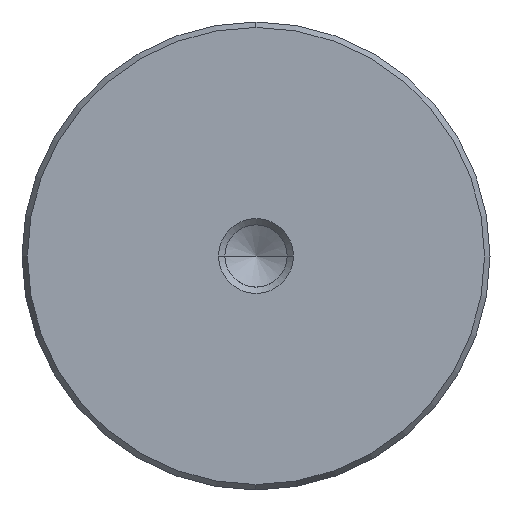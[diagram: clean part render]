
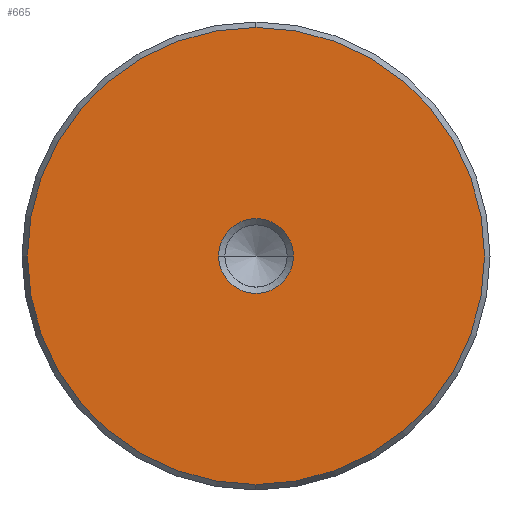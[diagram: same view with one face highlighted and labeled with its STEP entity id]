
A CAD part, left-side view. The second image highlights one B-rep face of the part: STEP entity #665.
In plain terms, the highlighted planar face has unit normal (-1, 0, 0).
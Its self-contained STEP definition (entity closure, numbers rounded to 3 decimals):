
#579=CARTESIAN_POINT('Vertex',(0.,0.,-24.423)) ;
#582=CARTESIAN_POINT('Axis2P3D Location',(0.,0.,0.)) ;
#586=CARTESIAN_POINT('Vertex',(0.,24.423,0.)) ;
#589=CARTESIAN_POINT('Axis2P3D Location',(0.,0.,0.)) ;
#593=CARTESIAN_POINT('Vertex',(0.,0.,24.423)) ;
#615=CARTESIAN_POINT('Axis2P3D Location',(0.,0.,0.)) ;
#619=CARTESIAN_POINT('Vertex',(0.,-24.423,0.)) ;
#622=CARTESIAN_POINT('Axis2P3D Location',(0.,0.,0.)) ;
#636=CARTESIAN_POINT('Axis2P3D Location',(0.,0.,0.)) ;
#647=CARTESIAN_POINT('Axis2P3D Location',(0.,0.,0.)) ;
#651=CARTESIAN_POINT('Vertex',(0.,4.,0.)) ;
#653=CARTESIAN_POINT('Vertex',(0.,-4.,0.)) ;
#656=CARTESIAN_POINT('Axis2P3D Location',(0.,0.,0.)) ;
#583=DIRECTION('Axis2P3D Direction',(1.,0.,-0.)) ;
#590=DIRECTION('Axis2P3D Direction',(1.,0.,-0.)) ;
#616=DIRECTION('Axis2P3D Direction',(1.,0.,-0.)) ;
#623=DIRECTION('Axis2P3D Direction',(1.,0.,-0.)) ;
#637=DIRECTION('Axis2P3D Direction',(1.,0.,-0.)) ;
#638=DIRECTION('Axis2P3D XDirection',(-0.,0.,-1.)) ;
#648=DIRECTION('Axis2P3D Direction',(1.,0.,-0.)) ;
#657=DIRECTION('Axis2P3D Direction',(1.,0.,-0.)) ;
#584=AXIS2_PLACEMENT_3D('Circle Axis2P3D',#582,#583,$) ;
#591=AXIS2_PLACEMENT_3D('Circle Axis2P3D',#589,#590,$) ;
#617=AXIS2_PLACEMENT_3D('Circle Axis2P3D',#615,#616,$) ;
#624=AXIS2_PLACEMENT_3D('Circle Axis2P3D',#622,#623,$) ;
#639=AXIS2_PLACEMENT_3D('Plane Axis2P3D',#636,#637,#638) ;
#649=AXIS2_PLACEMENT_3D('Circle Axis2P3D',#647,#648,$) ;
#658=AXIS2_PLACEMENT_3D('Circle Axis2P3D',#656,#657,$) ;
#642=ORIENTED_EDGE('',*,*,#588,.F.) ;
#643=ORIENTED_EDGE('',*,*,#626,.F.) ;
#644=ORIENTED_EDGE('',*,*,#621,.F.) ;
#645=ORIENTED_EDGE('',*,*,#595,.F.) ;
#662=ORIENTED_EDGE('',*,*,#655,.T.) ;
#663=ORIENTED_EDGE('',*,*,#660,.T.) ;
#664=FACE_BOUND('',#661,.T.) ;
#665=ADVANCED_FACE('720-50x400',(#646,#664),#640,.F.) ;
#585=CIRCLE('generated circle',#584,24.423) ;
#592=CIRCLE('generated circle',#591,24.423) ;
#618=CIRCLE('generated circle',#617,24.423) ;
#625=CIRCLE('generated circle',#624,24.423) ;
#650=CIRCLE('generated circle',#649,4.) ;
#659=CIRCLE('generated circle',#658,4.) ;
#588=EDGE_CURVE('',#580,#587,#585,.T.) ;
#595=EDGE_CURVE('',#587,#594,#592,.T.) ;
#621=EDGE_CURVE('',#594,#620,#618,.T.) ;
#626=EDGE_CURVE('',#620,#580,#625,.T.) ;
#655=EDGE_CURVE('',#652,#654,#650,.T.) ;
#660=EDGE_CURVE('',#654,#652,#659,.T.) ;
#641=EDGE_LOOP('',(#642,#643,#644,#645)) ;
#661=EDGE_LOOP('',(#662,#663)) ;
#646=FACE_OUTER_BOUND('',#641,.T.) ;
#640=PLANE('Plane',#639) ;
#580=VERTEX_POINT('',#579) ;
#587=VERTEX_POINT('',#586) ;
#594=VERTEX_POINT('',#593) ;
#620=VERTEX_POINT('',#619) ;
#652=VERTEX_POINT('',#651) ;
#654=VERTEX_POINT('',#653) ;
